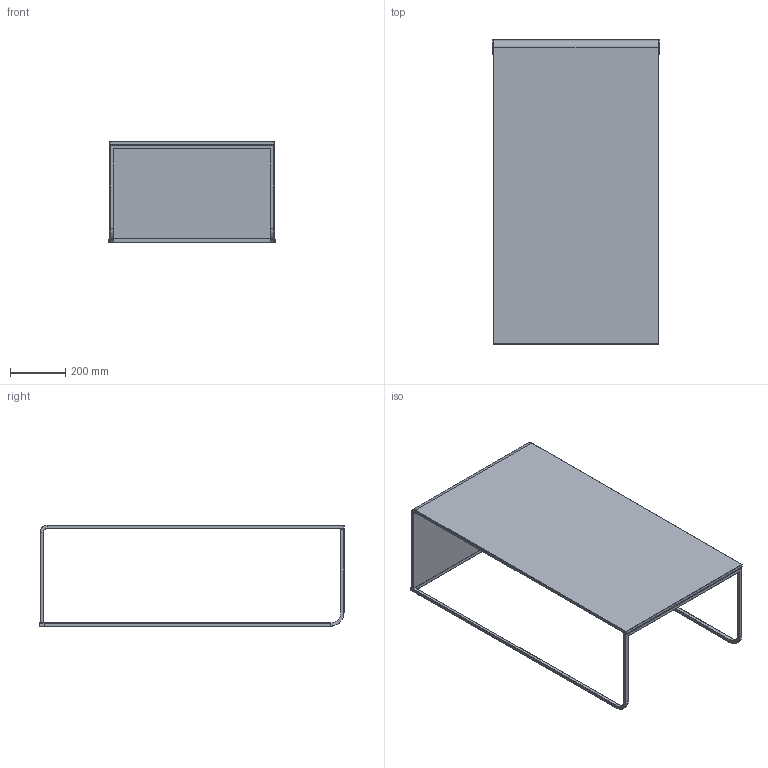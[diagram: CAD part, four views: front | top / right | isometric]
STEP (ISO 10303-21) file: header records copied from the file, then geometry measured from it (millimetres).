
FILE_DESCRIPTION((''),'2;1');
FILE_NAME('C:\AutodeskVault\AreaLavoro\Progetti\SoVeT Italia\2. Tavolini_Coffee tables\Nido\Web file\Nido Web\P4574.stp','2012-06-13T16:48:45',('Gianluca'),('So.Ve.T. s.r.l.'),'Autodesk Inventor 2013','Autodesk Inventor 2013','IL PROGETTO E'' DI ESCLUSIVA PROPRIETA'' DELLA SO.VE.T. srl. E'' VIETATA OGNI RIPRODUZIONE TOTALE O PARZIALE E QUALSIASI UTILIZZO NON AUTORIZZATO.');
FILE_SCHEMA(('AUTOMOTIVE_DESIGN { 1 0 10303 214 1 1 1 1 }'));
Length unit declared in the file: millimetre
Products named in the file (1): P4574 TR Contorno semplificato
Bounding box: 600.04 x 1100.97 x 366.5 mm (x, y, z)
Volume: 10821957.4 mm3; surface area: 1926723.1 mm2
Topology: 1 solids, 1 shells, 146 faces, 337 edges, 182 vertices
Faces by surface type: plane 65, cylinder 45, cone 12, torus 12, sphere 8, bspline 4
Full cylindrical faces by diameter (mm): 12 x2
Entity records: 4236 total; most frequent: CARTESIAN_POINT 801, DIRECTION 713, ORIENTED_EDGE 638, EDGE_CURVE 319, AXIS2_PLACEMENT_3D 257, VECTOR 199, LINE 199, VERTEX_POINT 180
